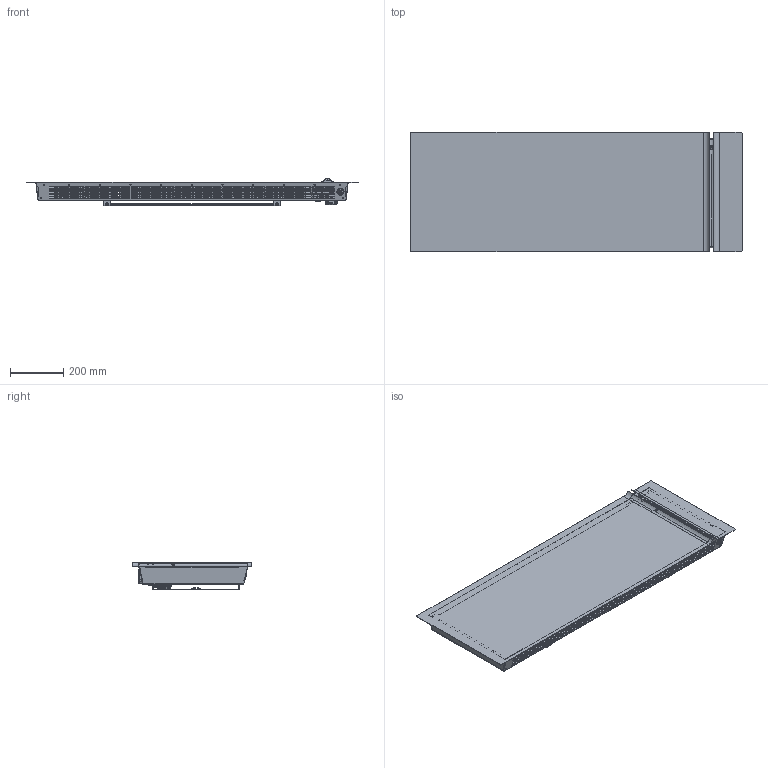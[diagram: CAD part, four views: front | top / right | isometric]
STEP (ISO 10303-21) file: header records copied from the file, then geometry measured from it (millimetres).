
FILE_DESCRIPTION(('FreeCAD Model'),'2;1');
FILE_NAME('Open CASCADE Shape Model','2026-06-03T14:08:18',(''),(''), 'Open CASCADE STEP processor 7.8','FreeCAD','Unknown');
FILE_SCHEMA(('AUTOMOTIVE_DESIGN { 1 0 10303 214 1 1 1 1 }'));
Length unit declared in the file: millimetre
Products named in the file (23): Unnamed; RMV_POSTERIORE-2000W; RMV_GR-SCATOLA-COMANDI_ASM; RMV_FONDO-SCATOLA-COMANDI; RMV_COPERCHIO-SCATOLA-COMANDI; RMV_SUPPORTO-SONDA; RMV_GR-FRONTALE_MET_2000W_ASM; RMV_FRONTALE-DX; RMV_FRONTALE-SX_2000W; RMV_BARRA-FISSAGGIO-SUP_2000W; RMV_SUPPORTO-PIR-MET; RMV_GR-PIR-BOARD_ASM; RMV_PIR-BOARD; RMV_GR-DISPLAY_ASM; RMV_PROTEZIONE-TRASPARE-DISPLAY; RMV_COPERTURA-SUPERIORE-COMANDI; SOLID016; RMV_GR-SUPPORTO-MURALE_15-20_ASM; KLI_TRAVERSA-SUPPORTO_MAX; RMV_GR-ASTA-SUPPORTO-MURALE_ASM; RMV_STAFFA-SUPPORTO-MURALE; RMV_GR-ASTA-SUPPORTO-MURALE_ASM001; WFB_COPERCHIO
Assembly tree (23 placements, depth 4):
  Unnamed
    RMV_POSTERIORE-2000W
    RMV_GR-SCATOLA-COMANDI_ASM
      RMV_FONDO-SCATOLA-COMANDI
      RMV_COPERCHIO-SCATOLA-COMANDI
    RMV_SUPPORTO-SONDA
    RMV_GR-FRONTALE_MET_2000W_ASM
      RMV_FRONTALE-DX
      RMV_FRONTALE-SX_2000W
      RMV_BARRA-FISSAGGIO-SUP_2000W
    RMV_SUPPORTO-PIR-MET
    RMV_GR-PIR-BOARD_ASM
      RMV_PIR-BOARD
    RMV_GR-DISPLAY_ASM
      RMV_PROTEZIONE-TRASPARE-DISPLAY
    RMV_COPERTURA-SUPERIORE-COMANDI
      SOLID016
    RMV_GR-SUPPORTO-MURALE_15-20_ASM
      KLI_TRAVERSA-SUPPORTO_MAX
      RMV_GR-ASTA-SUPPORTO-MURALE_ASM
        RMV_STAFFA-SUPPORTO-MURALE
      RMV_GR-ASTA-SUPPORTO-MURALE_ASM001
        RMV_STAFFA-SUPPORTO-MURALE
    WFB_COPERCHIO
Bounding box: 1250 x 450 x 104.8 mm (x, y, z)
Volume: 1624739 mm3; surface area: 2808448.9 mm2
Topology: 15 solids, 15 shells, 5658 faces, 15544 edges, 9960 vertices
Faces by surface type: plane 3689, cylinder 1015, bspline 499, cone 287, torus 122, sphere 28, extrusion 18
Entity records: 212534 total; most frequent: CARTESIAN_POINT 78447, ORIENTED_EDGE 30494, DIRECTION 23264, EDGE_CURVE 15247, VERTEX_POINT 9779, VECTOR 9390, LINE 9372, AXIS2_PLACEMENT_3D 6937
